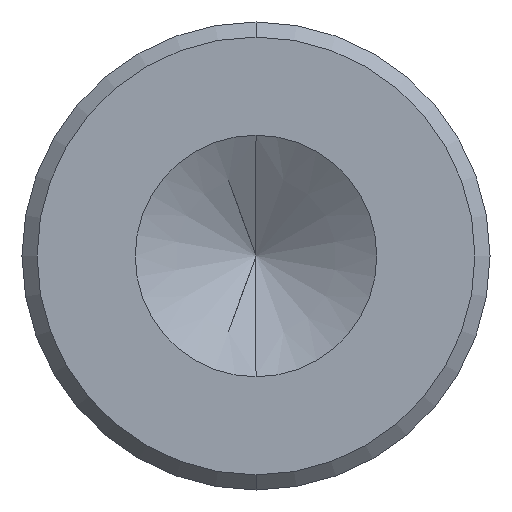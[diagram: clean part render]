
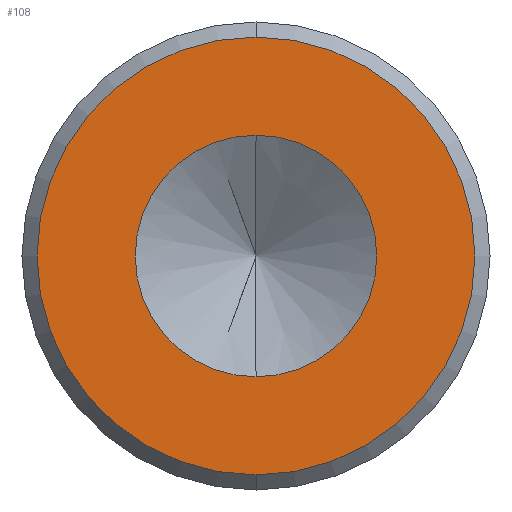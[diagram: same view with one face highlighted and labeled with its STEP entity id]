
A CAD part, front view. The second image highlights one B-rep face of the part: STEP entity #108.
In plain terms, the highlighted planar face has unit normal (0, -1, 0).
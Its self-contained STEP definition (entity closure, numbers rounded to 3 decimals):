
#1 = EDGE_LOOP ( 'NONE', ( #396, #200 ) ) ;
#16 = CARTESIAN_POINT ( 'NONE',  ( 0., 0., 0. ) ) ;
#36 = CARTESIAN_POINT ( 'NONE',  ( 0., 0., 0. ) ) ;
#41 = CARTESIAN_POINT ( 'NONE',  ( 0., 0., 0. ) ) ;
#43 = EDGE_CURVE ( 'NONE', #423, #355, #121, .T. ) ;
#52 = DIRECTION ( 'NONE',  ( 0., -1., 0. ) ) ;
#54 = PLANE ( 'NONE',  #365 ) ;
#55 = DIRECTION ( 'NONE',  ( 0., 0., 1. ) ) ;
#64 = CIRCLE ( 'NONE', #450, 0.8 ) ;
#81 = CARTESIAN_POINT ( 'NONE',  ( 0., 0., 0. ) ) ;
#86 = DIRECTION ( 'NONE',  ( 0., 0., 1. ) ) ;
#91 = EDGE_CURVE ( 'NONE', #165, #176, #129, .T. ) ;
#108 = ADVANCED_FACE ( 'NONE', ( #394, #160 ), #54, .F. ) ;
#121 = CIRCLE ( 'NONE', #430, 0.8 ) ;
#123 = DIRECTION ( 'NONE',  ( 0., 0., -1. ) ) ;
#127 = CARTESIAN_POINT ( 'NONE',  ( 0., 0., -1.45 ) ) ;
#129 = CIRCLE ( 'NONE', #472, 1.45 ) ;
#134 = CARTESIAN_POINT ( 'NONE',  ( 0., 0., 0. ) ) ;
#139 = AXIS2_PLACEMENT_3D ( 'NONE', #41, #334, #192 ) ;
#146 = DIRECTION ( 'NONE',  ( 0., 0., -1. ) ) ;
#160 = FACE_BOUND ( 'NONE', #240, .T. ) ;
#162 = DIRECTION ( 'NONE',  ( 0., -1., 0. ) ) ;
#165 = VERTEX_POINT ( 'NONE', #171 ) ;
#171 = CARTESIAN_POINT ( 'NONE',  ( 0., 0., 1.45 ) ) ;
#176 = VERTEX_POINT ( 'NONE', #127 ) ;
#192 = DIRECTION ( 'NONE',  ( 0., 0., 1. ) ) ;
#198 = CARTESIAN_POINT ( 'NONE',  ( 0., 0., -0.8 ) ) ;
#200 = ORIENTED_EDGE ( 'NONE', *, *, #227, .T. ) ;
#206 = CARTESIAN_POINT ( 'NONE',  ( 0., 0., 0.8 ) ) ;
#208 = EDGE_CURVE ( 'NONE', #355, #423, #64, .T. ) ;
#227 = EDGE_CURVE ( 'NONE', #176, #165, #425, .T. ) ;
#240 = EDGE_LOOP ( 'NONE', ( #368, #429 ) ) ;
#245 = DIRECTION ( 'NONE',  ( 0., 1., 0. ) ) ;
#334 = DIRECTION ( 'NONE',  ( 0., -1., 0. ) ) ;
#355 = VERTEX_POINT ( 'NONE', #206 ) ;
#365 = AXIS2_PLACEMENT_3D ( 'NONE', #134, #245, #55 ) ;
#368 = ORIENTED_EDGE ( 'NONE', *, *, #43, .F. ) ;
#394 = FACE_OUTER_BOUND ( 'NONE', #1, .T. ) ;
#396 = ORIENTED_EDGE ( 'NONE', *, *, #91, .T. ) ;
#423 = VERTEX_POINT ( 'NONE', #198 ) ;
#425 = CIRCLE ( 'NONE', #139, 1.45 ) ;
#429 = ORIENTED_EDGE ( 'NONE', *, *, #208, .F. ) ;
#430 = AXIS2_PLACEMENT_3D ( 'NONE', #81, #162, #123 ) ;
#450 = AXIS2_PLACEMENT_3D ( 'NONE', #36, #473, #146 ) ;
#472 = AXIS2_PLACEMENT_3D ( 'NONE', #16, #52, #86 ) ;
#473 = DIRECTION ( 'NONE',  ( 0., -1., 0. ) ) ;
